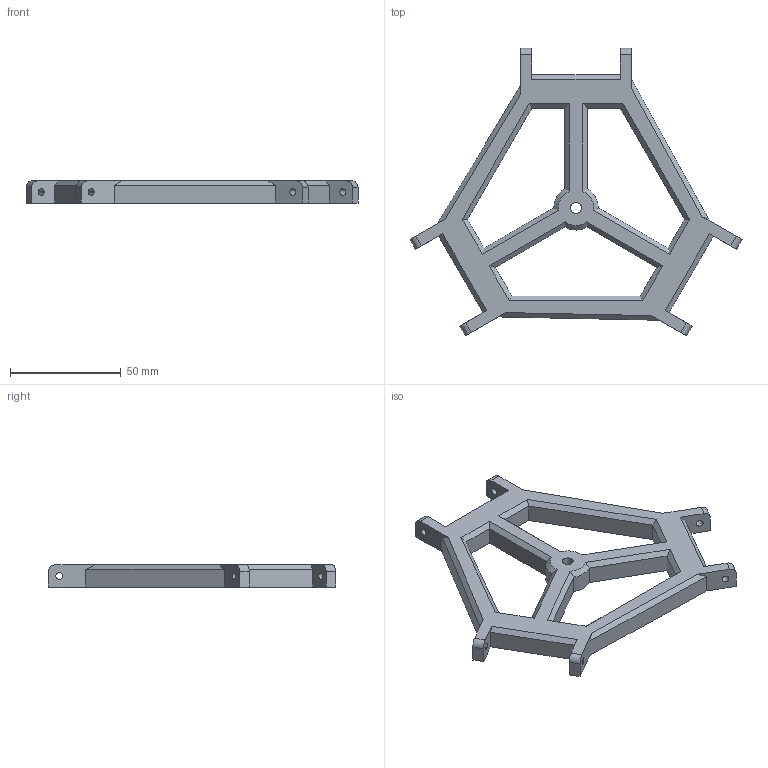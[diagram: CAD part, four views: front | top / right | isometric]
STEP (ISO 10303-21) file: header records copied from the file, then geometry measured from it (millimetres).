
FILE_DESCRIPTION(/* description */ (''),/* implementation_level */ '2;1');
FILE_NAME(/* name */ 'D:\3D печать\Мои проекты\Archy MK 2\STEP\MK3\пластина регулировки плечь большая.stp',/* time_stamp */ '2019-07-18T21:38:04+06:00',/* author */ ('Пользователь'),/* organization */ (''),/* preprocessor_version */ 'ST-DEVELOPER v16.5',/* originating_system */ 'Autodesk Inventor 2017',/* authorisation */ '');
FILE_SCHEMA (('AUTOMOTIVE_DESIGN { 1 0 10303 214 3 1 1 }'));
Length unit declared in the file: millimetre
Products named in the file (1): пластина \X2\0440043504330443043B0438
0440043E0432043A0438\X0\ плечь \X2\0431043E043B
044C04480430044F\X0\
Bounding box: 149.73 x 129.67 x 10 mm (x, y, z)
Volume: 55708.8 mm3; surface area: 21358.3 mm2
Topology: 1 solids, 1 shells, 81 faces, 227 edges, 155 vertices
Faces by surface type: plane 62, cylinder 16, cone 3
Full cylindrical faces by diameter (mm): 3.1 x6, 5 x1
Entity records: 2618 total; most frequent: CARTESIAN_POINT 474, ORIENTED_EDGE 424, DIRECTION 414, EDGE_CURVE 212, LINE 178, VECTOR 178, VERTEX_POINT 140, AXIS2_PLACEMENT_3D 118
